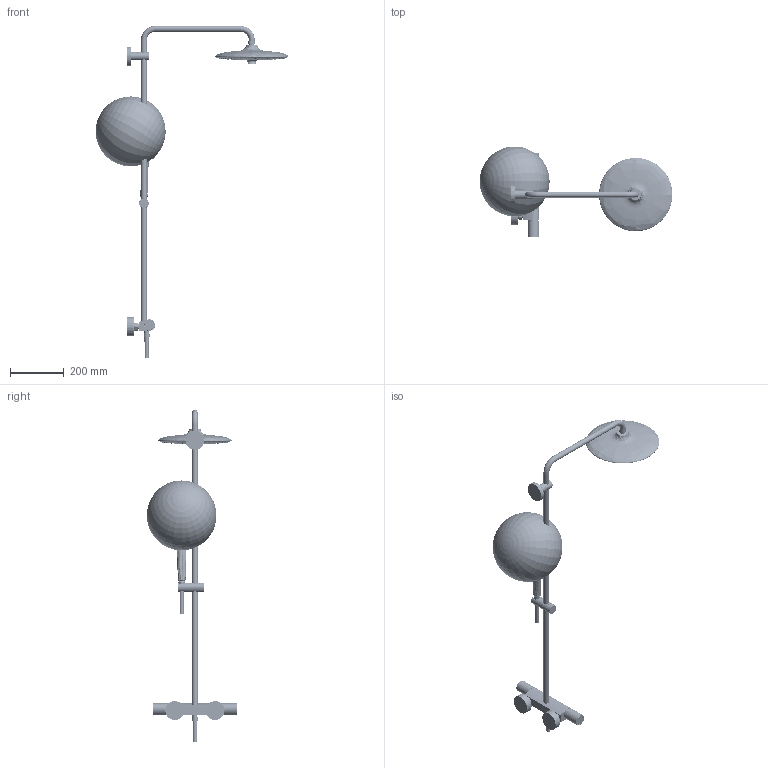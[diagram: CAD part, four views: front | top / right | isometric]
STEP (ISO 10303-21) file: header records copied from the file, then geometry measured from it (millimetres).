
FILE_DESCRIPTION(/* description */ ('Unknown'),/* implementation_level */ '2;1');
FILE_NAME(/* name */ '27296003',/* time_stamp */ '2022-08-26T11:38:33+02:00',/* author */ ('Unknown'),/* organization */ ('GROHE AG'),/* preprocessor_version */ 'ST-DEVELOPER v16.7',/* originating_system */ 'DEX',/* authorisation */ $);
FILE_SCHEMA (('AUTOMOTIVE_DESIGN {1 0 10303 214 3 1 1}'));
Products named in the file (41): 27296003; 27296003_0; 27296003_1; 27296003_2; g01806A88795qqn0; caps; 27296003_3; 27296003_4; G0181BC40660ln5y; G0181F9CAB557vxb; 27296003_5; 27296003_6; face1; 071012_FamilyHSH_D_Jets5L_Lob; 071108_Family_HSH_FaceEco_E_Lob; 27296003_7; 27296003_8; 27296003_9; 27296003_10; 27296003_11; 27296003_12; 27296003_13; 27296003_14; 27296003_15; 27296003_16; 27296003_17; 27296003_18; 081107 GTM1000C Handles Update02; 081107 GTM1000C Handles Update02_0; 27296003_19; 27296003_20; 27296003_21; 27296003_22; 27296003_23; 27296003_24; 27296003_25; 27296003_26; 27296003_27; 27296003_28; 27296003_29
Assembly tree (40 placements, depth 2):
  27296003
    27296003
    27296003_0
    27296003_1
    27296003_2
    g01806A88795qqn0
    caps
    27296003_3
    27296003_4
    G0181BC40660ln5y
    G0181F9CAB557vxb
    27296003_5
    27296003_6
    face1
    071012_FamilyHSH_D_Jets5L_Lob
    071108_Family_HSH_FaceEco_E_Lob
    27296003_7
    27296003_8
    27296003_9
    27296003_10
    27296003_11
    27296003_12
    27296003_13
    27296003_14
    27296003_15
    27296003_16
    27296003_17
    27296003_18
    081107 GTM1000C Handles Update02
    081107 GTM1000C Handles Update02_0
    27296003_19
    27296003_20
    27296003_21
    27296003_22
    27296003_23
    27296003_24
    27296003_25
    27296003_26
    27296003_27
    27296003_28
    27296003_29
Bounding box: 715.05 x 334.87 x 1232.45 mm (x, y, z)
Volume: 11427384.4 mm3; surface area: 1131089.1 mm2
Topology: 40 solids, 41 shells, 10915 faces, 30780 edges, 19663 vertices
Faces by surface type: bspline 5604, plane 2479, cylinder 860, torus 837, cone 706, sphere 429
Full cylindrical faces by diameter (mm): 1.4 x3, 2.5 x2, 3 x108, 3.5 x18, 4 x16, 4.2 x1, 4.5 x18, 6 x1, 12.35 x1, 12.4 x1, 12.55 x1, 13.5 x1, 15 x3, 15.6 x1, 16 x1, 17.5 x2, 18 x2, 18.2 x1, 18.4 x1, 18.455 x1, 18.5 x1, 18.63 x1, 18.631 x1, 18.7 x4, 18.8 x1, 19.9 x1, 20 x4, 20.5 x2, 20.9 x4, 20.96 x1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
Entity records: 649630 total; most frequent: CARTESIAN_POINT 430393, ORIENTED_EDGE 54286, DIRECTION 27172, EDGE_CURVE 27143, VERTEX_POINT 18286, B_SPLINE_CURVE_WITH_KNOTS 17485, FACE_BOUND 13537, EDGE_LOOP 13531
